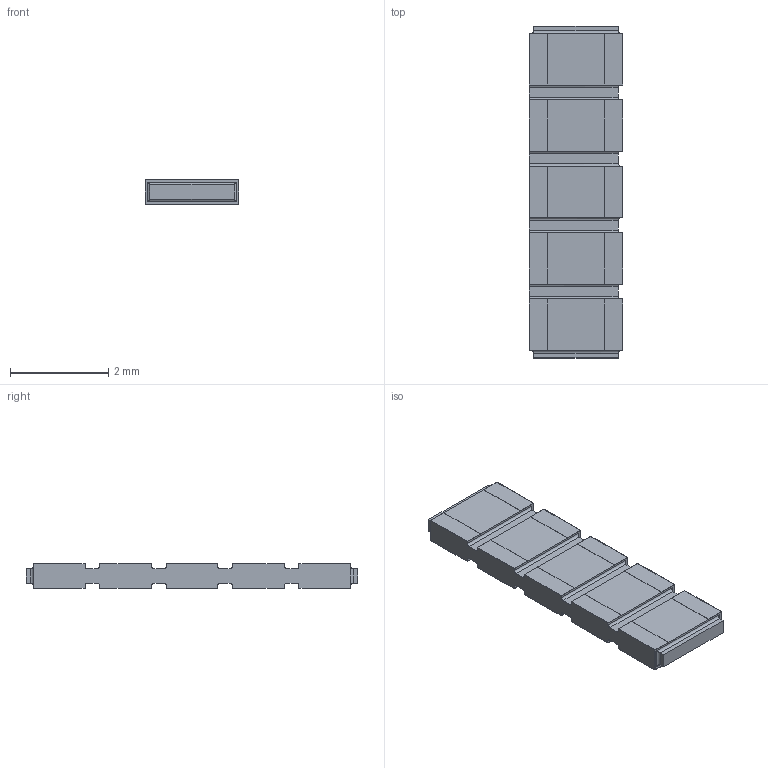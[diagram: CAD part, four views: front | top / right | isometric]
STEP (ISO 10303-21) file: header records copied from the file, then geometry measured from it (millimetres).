
FILE_DESCRIPTION(/* description */ (''),/* implementation_level */ '2;1');
FILE_NAME(/* name */ 'S:\DOCUMENT\AUTOCAD\3D_Modèles\10_3D-pour-VISHAY-COM\PRA\PRA135\PRA135-C2_à_C8\10_IGES\PRA135C5_B-or-N-or-G.stp',/* time_stamp */ '2017-12-18T12:03:00+01:00',/* author */ ('dparmentier'),/* organization */ ('unknown'),/* preprocessor_version */ 'ST-DEVELOPER v17',/* originating_system */ 'Autodesk Inventor 2018',/* authorisation */ '');
FILE_SCHEMA (('AUTOMOTIVE_DESIGN { 1 0 10303 214 3 1 1 }'));
Length unit declared in the file: millimetre
Products named in the file (1): PRA135C5_B-or-N-or-G
Bounding box: 1.91 x 6.75 x 0.5 mm (x, y, z)
Volume: 5.8 mm3; surface area: 62.7 mm2
Topology: 7 solids, 7 shells, 204 faces, 540 edges, 352 vertices
Faces by surface type: plane 156, cylinder 48
Entity records: 6271 total; most frequent: CARTESIAN_POINT 1097, ORIENTED_EDGE 1080, DIRECTION 1022, EDGE_CURVE 540, LINE 468, VECTOR 468, VERTEX_POINT 352, AXIS2_PLACEMENT_3D 277
